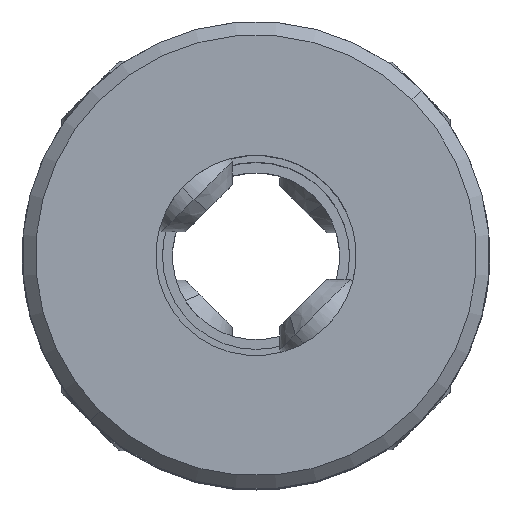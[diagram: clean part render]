
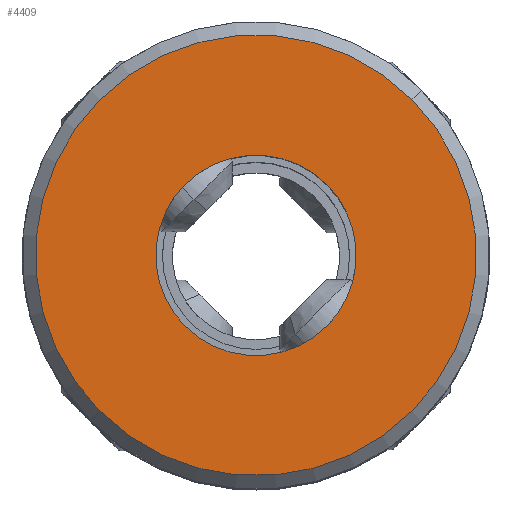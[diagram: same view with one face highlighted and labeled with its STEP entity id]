
A CAD part, top view. The second image highlights one B-rep face of the part: STEP entity #4409.
In plain terms, the highlighted planar face has unit normal (0, 0, 1).
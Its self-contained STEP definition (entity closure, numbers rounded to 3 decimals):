
#1 = AXIS2_PLACEMENT_3D ( 'NONE', #9058, #5675, #7451 ) ;
#21 = CARTESIAN_POINT ( 'NONE',  ( -4.667, -4.667, 11. ) ) ;
#75 = AXIS2_PLACEMENT_3D ( 'NONE', #6903, #6872, #204 ) ;
#204 = DIRECTION ( 'NONE',  ( -0.707, -0.707, 0. ) ) ;
#438 = DIRECTION ( 'NONE',  ( 0., 0., 1. ) ) ;
#483 = CARTESIAN_POINT ( 'NONE',  ( 0., 0., 11. ) ) ;
#990 = VERTEX_POINT ( 'NONE', #2678 ) ;
#1651 = DIRECTION ( 'NONE',  ( 0., 0., -1. ) ) ;
#1695 = CIRCLE ( 'NONE', #75, 3. ) ;
#1745 = ORIENTED_EDGE ( 'NONE', *, *, #8987, .T. ) ;
#2666 = AXIS2_PLACEMENT_3D ( 'NONE', #483, #8973, #8818 ) ;
#2678 = CARTESIAN_POINT ( 'NONE',  ( -2.121, -2.121, 11. ) ) ;
#3131 = CARTESIAN_POINT ( 'NONE',  ( 0., 0., 11. ) ) ;
#3489 = EDGE_CURVE ( 'NONE', #8605, #990, #10293, .T. ) ;
#3492 = ORIENTED_EDGE ( 'NONE', *, *, #6149, .T. ) ;
#3667 = CIRCLE ( 'NONE', #2666, 6.6 ) ;
#4015 = ORIENTED_EDGE ( 'NONE', *, *, #6667, .T. ) ;
#4409 = ADVANCED_FACE ( 'NONE', ( #6110, #5081 ), #9088, .F. ) ;
#5073 = CARTESIAN_POINT ( 'NONE',  ( 0., 0., 11. ) ) ;
#5081 = FACE_BOUND ( 'NONE', #6242, .T. ) ;
#5460 = AXIS2_PLACEMENT_3D ( 'NONE', #3131, #438, #8043 ) ;
#5675 = DIRECTION ( 'NONE',  ( 0., 0., -1. ) ) ;
#5848 = EDGE_LOOP ( 'NONE', ( #3492, #1745 ) ) ;
#5937 = ORIENTED_EDGE ( 'NONE', *, *, #3489, .T. ) ;
#6110 = FACE_OUTER_BOUND ( 'NONE', #5848, .T. ) ;
#6134 = AXIS2_PLACEMENT_3D ( 'NONE', #5073, #1651, #7507 ) ;
#6149 = EDGE_CURVE ( 'NONE', #9641, #8039, #7341, .T. ) ;
#6242 = EDGE_LOOP ( 'NONE', ( #4015, #5937 ) ) ;
#6514 = CARTESIAN_POINT ( 'NONE',  ( 4.667, 4.667, 11. ) ) ;
#6667 = EDGE_CURVE ( 'NONE', #990, #8605, #1695, .T. ) ;
#6872 = DIRECTION ( 'NONE',  ( 0., 0., -1. ) ) ;
#6903 = CARTESIAN_POINT ( 'NONE',  ( 0., 0., 11. ) ) ;
#7341 = CIRCLE ( 'NONE', #5460, 6.6 ) ;
#7451 = DIRECTION ( 'NONE',  ( -0.707, -0.707, 0. ) ) ;
#7507 = DIRECTION ( 'NONE',  ( -0.707, -0.707, 0. ) ) ;
#8039 = VERTEX_POINT ( 'NONE', #6514 ) ;
#8043 = DIRECTION ( 'NONE',  ( -0.707, -0.707, 0. ) ) ;
#8605 = VERTEX_POINT ( 'NONE', #8964 ) ;
#8818 = DIRECTION ( 'NONE',  ( -0.707, -0.707, 0. ) ) ;
#8964 = CARTESIAN_POINT ( 'NONE',  ( 2.121, 2.121, 11. ) ) ;
#8973 = DIRECTION ( 'NONE',  ( 0., 0., 1. ) ) ;
#8987 = EDGE_CURVE ( 'NONE', #8039, #9641, #3667, .T. ) ;
#9058 = CARTESIAN_POINT ( 'NONE',  ( 0., 0., 11. ) ) ;
#9088 = PLANE ( 'NONE',  #1 ) ;
#9641 = VERTEX_POINT ( 'NONE', #21 ) ;
#10293 = CIRCLE ( 'NONE', #6134, 3. ) ;
